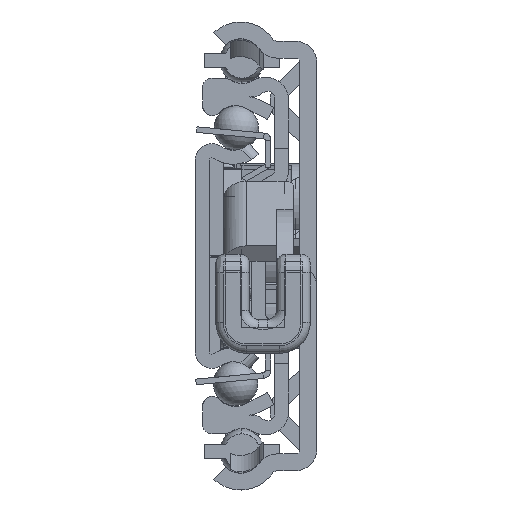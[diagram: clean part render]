
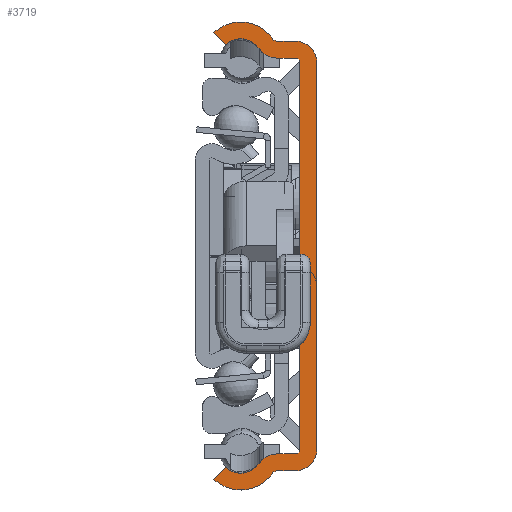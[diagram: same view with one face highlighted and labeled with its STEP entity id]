
A CAD part, left-side view. The second image highlights one B-rep face of the part: STEP entity #3719.
In plain terms, the highlighted planar face has unit normal (-1, 0, 0).
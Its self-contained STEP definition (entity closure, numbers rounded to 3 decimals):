
#1=DIRECTION('',(0.,1.,0.));
#2=VECTOR('',#1,1.975);
#3=CARTESIAN_POINT('',(0.,2.3,21.15));
#4=LINE('',#3,#2);
#5=CARTESIAN_POINT('',(0.,4.275,23.45));
#6=DIRECTION('',(-1.,0.,0.));
#7=DIRECTION('',(0.,0.827,-0.562));
#8=AXIS2_PLACEMENT_3D('',#5,#6,#7);
#10=CARTESIAN_POINT('',(0.,8.147,20.82));
#11=DIRECTION('',(-1.,0.,0.));
#12=DIRECTION('',(0.,-0.827,0.562));
#13=AXIS2_PLACEMENT_3D('',#10,#11,#12);
#15=DIRECTION('',(0.,0.683,0.731));
#16=VECTOR('',#15,1.8);
#17=CARTESIAN_POINT('',(0.,9.771,22.559));
#18=LINE('',#17,#16);
#19=CARTESIAN_POINT('',(0.,8.147,20.82));
#20=DIRECTION('',(1.,0.,0.));
#21=DIRECTION('',(0.,0.683,0.731));
#22=AXIS2_PLACEMENT_3D('',#19,#20,#21);
#24=DIRECTION('',(0.,-1.,0.));
#25=VECTOR('',#24,1.975);
#26=CARTESIAN_POINT('',(0.,4.275,22.95));
#27=LINE('',#26,#25);
#28=CARTESIAN_POINT('',(0.,2.3,20.65));
#29=DIRECTION('',(-1.,0.,0.));
#30=DIRECTION('',(0.,-1.,0.));
#31=AXIS2_PLACEMENT_3D('',#28,#29,#30);
#33=DIRECTION('',(0.,0.,-1.));
#34=VECTOR('',#33,41.3);
#35=CARTESIAN_POINT('',(0.,0.,20.65));
#36=LINE('',#35,#34);
#37=CARTESIAN_POINT('',(0.,2.3,-20.65));
#38=DIRECTION('',(-1.,0.,0.));
#39=DIRECTION('',(0.,0.,-1.));
#40=AXIS2_PLACEMENT_3D('',#37,#38,#39);
#42=DIRECTION('',(0.,1.,0.));
#43=VECTOR('',#42,1.975);
#44=CARTESIAN_POINT('',(0.,2.3,-22.95));
#45=LINE('',#44,#43);
#46=CARTESIAN_POINT('',(0.,8.147,-20.82));
#47=DIRECTION('',(1.,0.,0.));
#48=DIRECTION('',(0.,-0.827,-0.562));
#49=AXIS2_PLACEMENT_3D('',#46,#47,#48);
#51=DIRECTION('',(0.,-0.683,0.731));
#52=VECTOR('',#51,1.8);
#53=CARTESIAN_POINT('',(0.,11.,-23.875));
#54=LINE('',#53,#52);
#55=CARTESIAN_POINT('',(0.,8.147,-20.82));
#56=DIRECTION('',(-1.,0.,0.));
#57=DIRECTION('',(0.,0.683,-0.731));
#58=AXIS2_PLACEMENT_3D('',#55,#56,#57);
#60=CARTESIAN_POINT('',(0.,4.275,-23.45));
#61=DIRECTION('',(-1.,0.,0.));
#62=DIRECTION('',(0.,0.,1.));
#63=AXIS2_PLACEMENT_3D('',#60,#61,#62);
#65=DIRECTION('',(0.,-1.,0.));
#66=VECTOR('',#65,1.975);
#67=CARTESIAN_POINT('',(0.,4.275,-21.15));
#68=LINE('',#67,#66);
#181=DIRECTION('',(0.,0.,-1.));
#182=VECTOR('',#181,41.3);
#183=CARTESIAN_POINT('',(0.,1.8,20.65));
#184=LINE('',#183,#182);
#681=CARTESIAN_POINT('',(0.,2.3,-20.65));
#682=DIRECTION('',(1.,0.,0.));
#683=DIRECTION('',(0.,-1.,0.));
#684=AXIS2_PLACEMENT_3D('',#681,#682,#683);
#798=CARTESIAN_POINT('',(0.,4.275,-23.45));
#799=DIRECTION('',(1.,0.,0.));
#800=DIRECTION('',(0.,0.827,0.562));
#801=AXIS2_PLACEMENT_3D('',#798,#799,#800);
#1564=CARTESIAN_POINT('',(0.,4.275,23.45));
#1565=DIRECTION('',(1.,0.,0.));
#1566=DIRECTION('',(0.,0.,-1.));
#1567=AXIS2_PLACEMENT_3D('',#1564,#1565,#1566);
#1713=CARTESIAN_POINT('',(0.,2.3,20.65));
#1714=DIRECTION('',(1.,0.,0.));
#1715=DIRECTION('',(0.,0.,1.));
#1716=AXIS2_PLACEMENT_3D('',#1713,#1714,#1715);
#2838=CARTESIAN_POINT('',(0.,11.,-23.875));
#2839=CARTESIAN_POINT('',(0.,9.771,-22.559));
#2840=VERTEX_POINT('',#2838);
#2841=VERTEX_POINT('',#2839);
#2842=CARTESIAN_POINT('',(0.,9.771,22.559));
#2843=CARTESIAN_POINT('',(0.,11.,23.875));
#2844=VERTEX_POINT('',#2842);
#2845=VERTEX_POINT('',#2843);
#2854=CARTESIAN_POINT('',(0.,4.275,22.95));
#2855=CARTESIAN_POINT('',(0.,4.689,23.169));
#2856=VERTEX_POINT('',#2854);
#2857=VERTEX_POINT('',#2855);
#2862=CARTESIAN_POINT('',(0.,4.689,-23.169));
#2863=CARTESIAN_POINT('',(0.,4.275,-22.95));
#2864=VERTEX_POINT('',#2862);
#2865=VERTEX_POINT('',#2863);
#2870=CARTESIAN_POINT('',(0.,2.3,-21.15));
#2872=VERTEX_POINT('',#2870);
#2874=CARTESIAN_POINT('',(0.,2.3,21.15));
#2876=VERTEX_POINT('',#2874);
#2878=CARTESIAN_POINT('',(0.,1.8,-20.65));
#2879=VERTEX_POINT('',#2878);
#2882=CARTESIAN_POINT('',(0.,1.8,20.65));
#2883=VERTEX_POINT('',#2882);
#2886=CARTESIAN_POINT('',(0.,4.275,-21.15));
#2887=CARTESIAN_POINT('',(0.,6.178,-22.157));
#2888=VERTEX_POINT('',#2886);
#2889=VERTEX_POINT('',#2887);
#2894=CARTESIAN_POINT('',(0.,0.,20.65));
#2895=CARTESIAN_POINT('',(0.,2.3,22.95));
#2896=VERTEX_POINT('',#2894);
#2897=VERTEX_POINT('',#2895);
#2902=CARTESIAN_POINT('',(0.,6.178,22.157));
#2903=CARTESIAN_POINT('',(0.,4.275,21.15));
#2904=VERTEX_POINT('',#2902);
#2905=VERTEX_POINT('',#2903);
#2910=CARTESIAN_POINT('',(0.,2.3,-22.95));
#2911=CARTESIAN_POINT('',(0.,0.,-20.65));
#2912=VERTEX_POINT('',#2910);
#2913=VERTEX_POINT('',#2911);
#3672=CARTESIAN_POINT('',(0.,0.,0.));
#3673=DIRECTION('',(1.,0.,0.));
#3674=DIRECTION('',(0.,-1.,0.));
#3675=AXIS2_PLACEMENT_3D('',#3672,#3673,#3674);
#3676=PLANE('',#3675);
#3678=ORIENTED_EDGE('',*,*,#3677,.F.);
#3680=ORIENTED_EDGE('',*,*,#3679,.F.);
#3682=ORIENTED_EDGE('',*,*,#3681,.T.);
#3684=ORIENTED_EDGE('',*,*,#3683,.F.);
#3686=ORIENTED_EDGE('',*,*,#3685,.T.);
#3688=ORIENTED_EDGE('',*,*,#3687,.T.);
#3690=ORIENTED_EDGE('',*,*,#3689,.T.);
#3692=ORIENTED_EDGE('',*,*,#3691,.F.);
#3694=ORIENTED_EDGE('',*,*,#3693,.T.);
#3696=ORIENTED_EDGE('',*,*,#3695,.F.);
#3698=ORIENTED_EDGE('',*,*,#3697,.T.);
#3700=ORIENTED_EDGE('',*,*,#3699,.F.);
#3702=ORIENTED_EDGE('',*,*,#3701,.T.);
#3704=ORIENTED_EDGE('',*,*,#3703,.F.);
#3706=ORIENTED_EDGE('',*,*,#3705,.T.);
#3708=ORIENTED_EDGE('',*,*,#3707,.T.);
#3710=ORIENTED_EDGE('',*,*,#3709,.T.);
#3712=ORIENTED_EDGE('',*,*,#3711,.F.);
#3714=ORIENTED_EDGE('',*,*,#3713,.T.);
#3716=ORIENTED_EDGE('',*,*,#3715,.F.);
#3717=EDGE_LOOP('',(#3678,#3680,#3682,#3684,#3686,#3688,#3690,#3692,#3694,#3696,
#3698,#3700,#3702,#3704,#3706,#3708,#3710,#3712,#3714,#3716));
#3718=FACE_OUTER_BOUND('',#3717,.F.);
#9=CIRCLE('',#8,2.3);
#14=CIRCLE('',#13,2.38);
#23=CIRCLE('',#22,4.18);
#32=CIRCLE('',#31,2.3);
#41=CIRCLE('',#40,2.3);
#50=CIRCLE('',#49,4.18);
#59=CIRCLE('',#58,2.38);
#64=CIRCLE('',#63,2.3);
#685=CIRCLE('',#684,0.5);
#802=CIRCLE('',#801,0.5);
#1568=CIRCLE('',#1567,0.5);
#1717=CIRCLE('',#1716,0.5);
#3677=EDGE_CURVE('',#2883,#2879,#184,.T.);
#3679=EDGE_CURVE('',#2876,#2883,#1717,.T.);
#3681=EDGE_CURVE('',#2876,#2905,#4,.T.);
#3683=EDGE_CURVE('',#2904,#2905,#9,.T.);
#3685=EDGE_CURVE('',#2904,#2844,#14,.T.);
#3687=EDGE_CURVE('',#2844,#2845,#18,.T.);
#3689=EDGE_CURVE('',#2845,#2857,#23,.T.);
#3691=EDGE_CURVE('',#2856,#2857,#1568,.T.);
#3693=EDGE_CURVE('',#2856,#2897,#27,.T.);
#3695=EDGE_CURVE('',#2896,#2897,#32,.T.);
#3697=EDGE_CURVE('',#2896,#2913,#36,.T.);
#3699=EDGE_CURVE('',#2912,#2913,#41,.T.);
#3701=EDGE_CURVE('',#2912,#2865,#45,.T.);
#3703=EDGE_CURVE('',#2864,#2865,#802,.T.);
#3705=EDGE_CURVE('',#2864,#2840,#50,.T.);
#3707=EDGE_CURVE('',#2840,#2841,#54,.T.);
#3709=EDGE_CURVE('',#2841,#2889,#59,.T.);
#3711=EDGE_CURVE('',#2888,#2889,#64,.T.);
#3713=EDGE_CURVE('',#2888,#2872,#68,.T.);
#3715=EDGE_CURVE('',#2879,#2872,#685,.T.);
#3719=ADVANCED_FACE('',(#3718),#3676,.F.);
